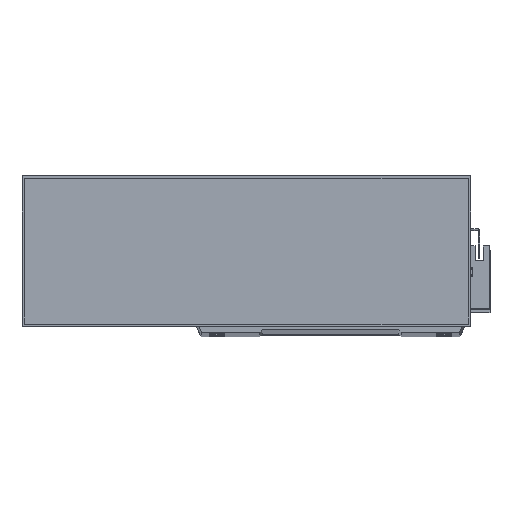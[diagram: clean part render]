
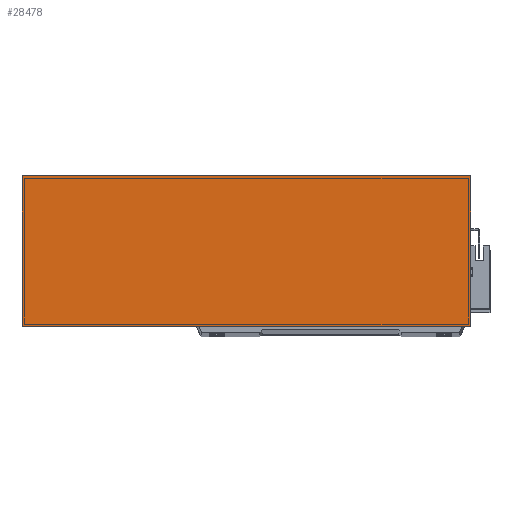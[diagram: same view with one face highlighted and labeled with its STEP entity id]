
A CAD part, top view. The second image highlights one B-rep face of the part: STEP entity #28478.
In plain terms, the highlighted planar face has unit normal (0, 0, 1).
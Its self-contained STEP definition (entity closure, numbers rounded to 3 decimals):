
#1374 = FACE_OUTER_BOUND ( 'NONE', #21961, .T. ) ;
#1995 = DIRECTION ( 'NONE',  ( 0., 1., 0. ) ) ;
#2190 = LINE ( 'NONE', #16941, #14858 ) ;
#2208 = VERTEX_POINT ( 'NONE', #22108 ) ;
#5642 = LINE ( 'NONE', #16252, #28758 ) ;
#5841 = AXIS2_PLACEMENT_3D ( 'NONE', #6465, #23153, #8876 ) ;
#6214 = LINE ( 'NONE', #26914, #17442 ) ;
#6465 = CARTESIAN_POINT ( 'NONE',  ( 0., 0., 50. ) ) ;
#7505 = EDGE_CURVE ( 'NONE', #2208, #20136, #13326, .T. ) ;
#7705 = ORIENTED_EDGE ( 'NONE', *, *, #13698, .T. ) ;
#7734 = VECTOR ( 'NONE', #1995, 1000. ) ;
#8876 = DIRECTION ( 'NONE',  ( -1., 0., 0. ) ) ;
#9030 = CARTESIAN_POINT ( 'NONE',  ( 277., 93., 50. ) ) ;
#9047 = ORIENTED_EDGE ( 'NONE', *, *, #25217, .T. ) ;
#9118 = PLANE ( 'NONE',  #5841 ) ;
#11301 = VERTEX_POINT ( 'NONE', #28988 ) ;
#12111 = DIRECTION ( 'NONE',  ( 0., -1., 0. ) ) ;
#13326 = LINE ( 'NONE', #16288, #7734 ) ;
#13698 = EDGE_CURVE ( 'NONE', #20136, #11301, #5642, .T. ) ;
#14369 = CARTESIAN_POINT ( 'NONE',  ( 0., 0., 50. ) ) ;
#14858 = VECTOR ( 'NONE', #12111, 1000. ) ;
#16252 = CARTESIAN_POINT ( 'NONE',  ( 0., 93., 50. ) ) ;
#16288 = CARTESIAN_POINT ( 'NONE',  ( 277., 0., 50. ) ) ;
#16941 = CARTESIAN_POINT ( 'NONE',  ( 0., 0., 50. ) ) ;
#17442 = VECTOR ( 'NONE', #19824, 1000. ) ;
#19824 = DIRECTION ( 'NONE',  ( 1., 0., 0. ) ) ;
#20136 = VERTEX_POINT ( 'NONE', #9030 ) ;
#21438 = VERTEX_POINT ( 'NONE', #14369 ) ;
#21961 = EDGE_LOOP ( 'NONE', ( #23683, #9047, #23434, #7705 ) ) ;
#22108 = CARTESIAN_POINT ( 'NONE',  ( 277., 0., 50. ) ) ;
#23153 = DIRECTION ( 'NONE',  ( 0., 0., -1. ) ) ;
#23434 = ORIENTED_EDGE ( 'NONE', *, *, #7505, .T. ) ;
#23683 = ORIENTED_EDGE ( 'NONE', *, *, #24560, .T. ) ;
#24560 = EDGE_CURVE ( 'NONE', #11301, #21438, #2190, .T. ) ;
#25217 = EDGE_CURVE ( 'NONE', #21438, #2208, #6214, .T. ) ;
#26914 = CARTESIAN_POINT ( 'NONE',  ( 0., 0., 50. ) ) ;
#28478 = ADVANCED_FACE ( 'NONE', ( #1374 ), #9118, .F. ) ;
#28758 = VECTOR ( 'NONE', #30484, 1000. ) ;
#28988 = CARTESIAN_POINT ( 'NONE',  ( 0., 93., 50. ) ) ;
#30484 = DIRECTION ( 'NONE',  ( -1., 0., 0. ) ) ;
